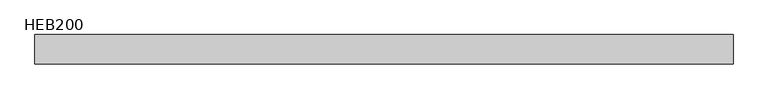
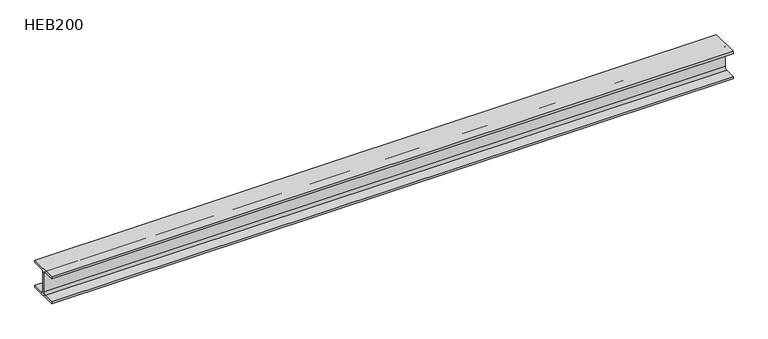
"""IFC4 building model written with IfcOpenShell, lengths in millimetres: beam geometry, HE-B : HEB200."""

from ifc_helpers import new_model, si_unit, point, frame, frame_2d, origin, place, context, project, spatial, polyline, circle_curve, trimmed, segment, composite_curve, outline, extrude, source, transform, mapped, element, save


def heb200_d26bcb9a(model_context):
    return source(origin(), model_context, "Body", "SweptSolid", [
        extrude(outline(composite_curve([segment(polyline([(100.0, -85.0), (100.0, -100.0), (-100.0, -100.0), (-100.0, -85.0), (-22.5, -85.0)]), True, "CONTINUOUS"), segment(trimmed(circle_curve(frame_2d((-22.5, -67.0)), 18.0), [point((-22.5, -85.0))], [point((-4.5, -67.0))], True, "CARTESIAN"), True, "CONTINUOUS"), segment(polyline([(-4.5, -67.0), (-4.5, 67.0)]), True, "CONTINUOUS"), segment(trimmed(circle_curve(frame_2d((-22.5, 67.0)), 18.0), [point((-4.5, 67.0))], [point((-22.5, 85.0))], True, "CARTESIAN"), True, "CONTINUOUS"), segment(polyline([(-22.5, 85.0), (-100.0, 85.0), (-100.0, 100.0), (100.0, 100.0), (100.0, 85.0), (22.5, 85.0)]), True, "CONTINUOUS"), segment(trimmed(circle_curve(frame_2d((22.5, 67.0)), 18.0), [point((22.5, 85.0))], [point((4.5, 67.0))], True, "CARTESIAN"), True, "CONTINUOUS"), segment(polyline([(4.5, 67.0), (4.5, -67.0)]), True, "CONTINUOUS"), segment(trimmed(circle_curve(frame_2d((22.5, -67.0)), 18.0), [point((4.5, -67.0))], [point((22.5, -85.0))], True, "CARTESIAN"), True, "CONTINUOUS"), segment(polyline([(22.5, -85.0), (100.0, -85.0)]), True, "CONTINUOUS")], self_intersect=False)), frame((-2362.3, 0.0, 0.0), z_axis=(1.0, 0.0, 0.0), x_axis=(0.0, 1.0, 0.0)), (0.0, 0.0, 1.0), 4724.6),
    ])


if __name__ == "__main__":
    model = new_model("IFC4")
    model_context = context("Model", 3, world=origin())
    ifc_project = project(units=[si_unit("LENGTHUNIT", "METRE", prefix="MILLI")], contexts=[model_context])
    site = spatial("IfcSite", under=ifc_project)
    building = spatial("IfcBuilding", under=site)
    placement = place(None, origin())
    heb200_shape = heb200_d26bcb9a(model_context)
    element("IfcBeam", 1, ObjectType="HE-B : HEB200", at=placement, inside=building, context=model_context, shape_type="MappedRepresentation", body=[
        mapped(heb200_shape, transform((0.0, 0.0, 0.0), x_axis=(1.0, 0.0, 0.0), y_axis=(0.0, 1.0, 0.0), z_axis=(0.0, 0.0, 1.0))),
    ])
    save(model, "model.ifc")
